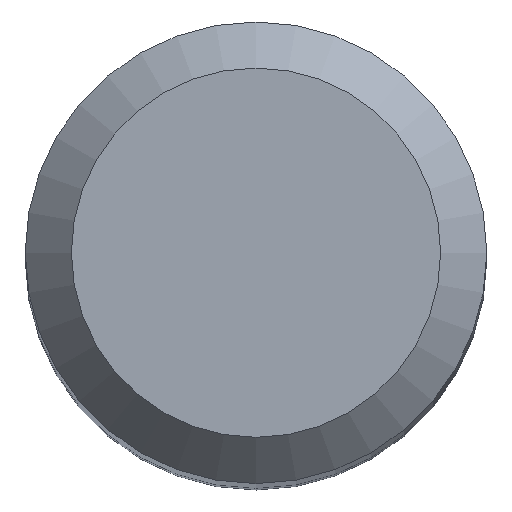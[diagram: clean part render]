
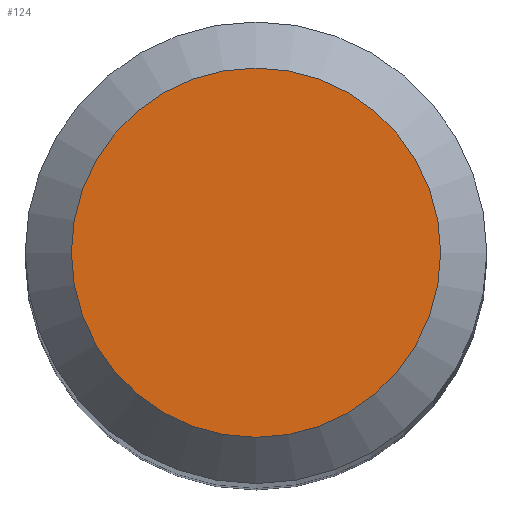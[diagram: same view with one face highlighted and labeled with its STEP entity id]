
A CAD part, top view. The second image highlights one B-rep face of the part: STEP entity #124.
In plain terms, the highlighted planar face has unit normal (0, 0, 1).
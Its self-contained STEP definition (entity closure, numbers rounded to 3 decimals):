
#108=CARTESIAN_POINT('',(3.2,0.0,65.0));
#109=DIRECTION('',(0.0,0.0,1.0));
#110=DIRECTION('',(1.0,0.0,0.0));
#111=AXIS2_PLACEMENT_3D('',#108,#109,#110);
#112=PLANE('',#111);
#113=CARTESIAN_POINT('',(-3.2,0.0,65.0));
#114=VERTEX_POINT('',#113);
#115=CARTESIAN_POINT('',(0.0,0.0,65.0));
#116=DIRECTION('',(0.0,0.0,-1.0));
#117=DIRECTION('',(-1.0,0.0,0.0));
#118=AXIS2_PLACEMENT_3D('',#115,#116,#117);
#119=CIRCLE('',#118,3.2);
#120=EDGE_CURVE('',#114,#114,#119,.T.);
#121=ORIENTED_EDGE('',*,*,#120,.F.);
#122=EDGE_LOOP('',(#121));
#123=FACE_OUTER_BOUND('',#122,.T.);
#124=ADVANCED_FACE('',(#123),#112,.T.);
